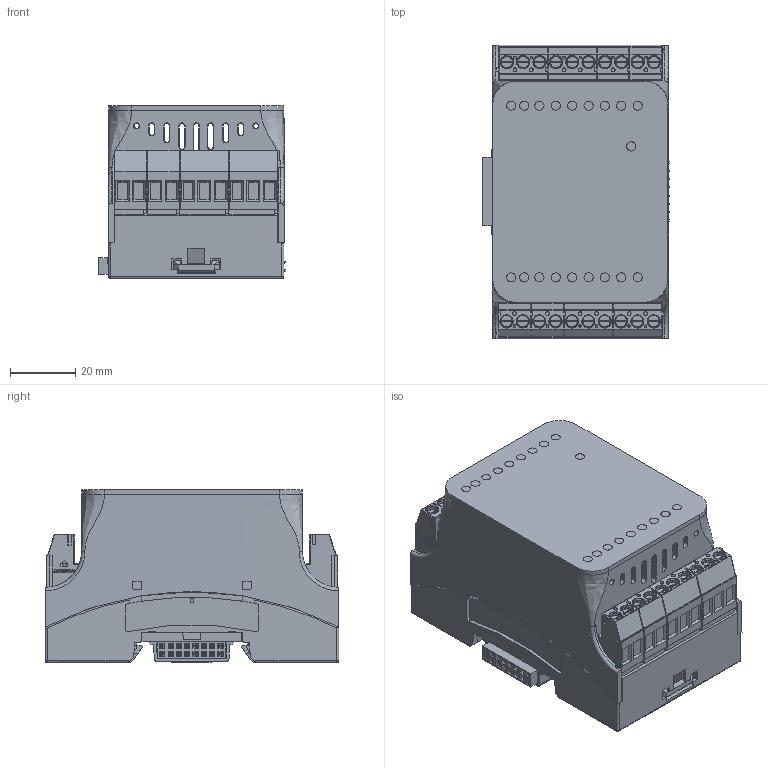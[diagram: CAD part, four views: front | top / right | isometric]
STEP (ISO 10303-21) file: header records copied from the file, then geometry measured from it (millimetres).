
FILE_DESCRIPTION(/* description */ (''),/* implementation_level */ '2;1');
FILE_NAME(/* name */ 'D:\WorkIMT\Project IMT\МВВ\v1\3D на сайт\18DO.stp',/* time_stamp */ '2026-06-09T08:44:11+03:00',/* author */ ('admin'),/* organization */ (''),/* preprocessor_version */ 'ST-DEVELOPER v17.2',/* originating_system */ 'Autodesk Inventor 2019',/* authorisation */ '');
FILE_SCHEMA (('AUTOMOTIVE_DESIGN { 1 0 10303 214 3 1 1 }'));
Products named in the file (1): MT.GARA-DIN.18DO.XX.XX 2
Bounding box: 57.13 x 89.74 x 52.89 mm (x, y, z)
Volume: 70148.9 mm3; surface area: 76176.1 mm2
Topology: 1 solids, 70 shells, 8026 faces, 22215 edges, 14364 vertices
Faces by surface type: plane 6559, cylinder 796, bspline 229, cone 220, torus 155, sphere 67
Full cylindrical faces by diameter (mm): 0.2 x232, 0.3 x1, 1.2 x18, 1.8 x4, 2.2 x8, 4.05 x20
Entity records: 278924 total; most frequent: CARTESIAN_POINT 66433, ORIENTED_EDGE 44292, DIRECTION 39600, EDGE_CURVE 22146, LINE 18088, VECTOR 18088, VERTEX_POINT 14364, AXIS2_PLACEMENT_3D 10756
